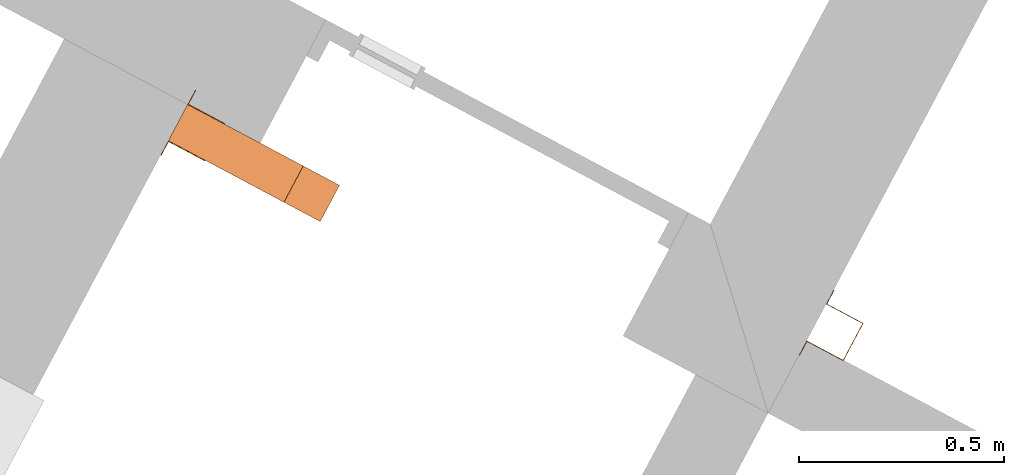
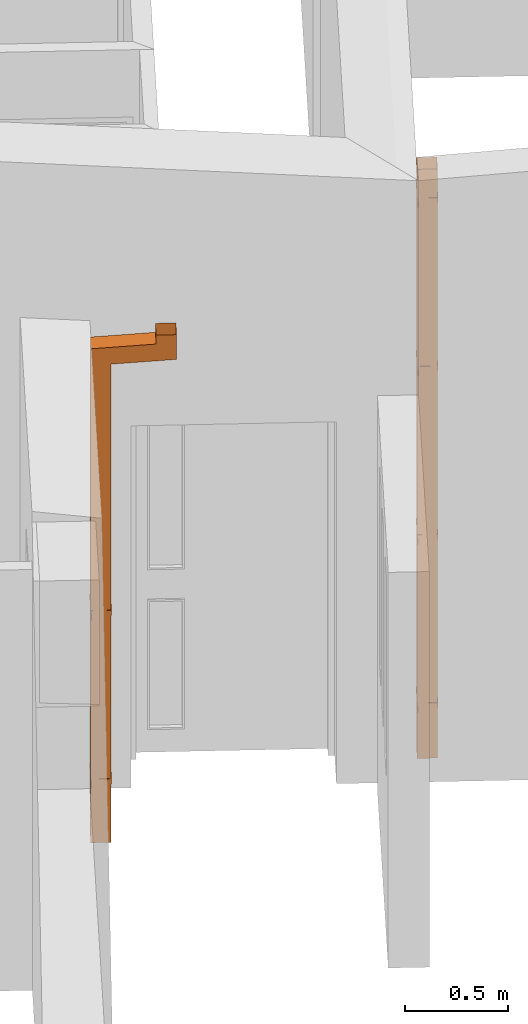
# One storey, part 16 of 27: 2 proxies.
"""IFC2X3 building model written with IfcOpenShell, lengths in metres."""

from ifc_helpers import new_model, entity, si_unit, converted_unit, derived_unit, money_unit, direction, frame, origin_with_axes, place, context, subcontext, project, spatial, open_shell, faceted_brep, surface_model, source, transform, mapped, type_object, element, save


model = new_model("IFC2X3")

# Units and contexts
model_context = context("Model", 3, precision=1e-05, world=origin_with_axes(), true_north=direction((0.0, 1.0)))
body_context = subcontext(model_context, "Body", "Model", "MODEL_VIEW")
ifc_project = project(units=[si_unit("LENGTHUNIT", "METRE"), si_unit("AREAUNIT", "SQUARE_METRE"), si_unit("VOLUMEUNIT", "CUBIC_METRE"), converted_unit("PLANEANGLEUNIT", "DEGREE", entity("IfcPlaneAngleMeasure", 0.0174532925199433), si_unit("PLANEANGLEUNIT", "RADIAN"), dimensions=[0, 0, 0, 0, 0, 0, 0]), money_unit("CHF"), converted_unit("TIMEUNIT", "Year", entity("IfcTimeMeasure", 31557600.0), si_unit("TIMEUNIT", "SECOND"), dimensions=[0, 0, 1, 0, 0, 0, 0]), si_unit("MASSUNIT", "GRAM", prefix="KILO"), si_unit("THERMODYNAMICTEMPERATUREUNIT", "DEGREE_CELSIUS"), si_unit("LUMINOUSINTENSITYUNIT", "LUMEN"), si_unit("ENERGYUNIT", "JOULE", prefix="MEGA"), derived_unit("THERMALCONDUCTANCEUNIT", [(si_unit("POWERUNIT", "WATT"), 1), (si_unit("LENGTHUNIT", "METRE"), -1), (si_unit("THERMODYNAMICTEMPERATUREUNIT", "KELVIN"), -1)]), derived_unit("SPECIFICHEATCAPACITYUNIT", [(si_unit("ENERGYUNIT", "JOULE"), 1), (si_unit("MASSUNIT", "GRAM", prefix="KILO"), -1), (si_unit("THERMODYNAMICTEMPERATUREUNIT", "KELVIN"), -1)]), derived_unit("MASSDENSITYUNIT", [(si_unit("MASSUNIT", "GRAM", prefix="KILO"), 1), (si_unit("VOLUMEUNIT", "CUBIC_METRE"), -1)])], contexts=[model_context])

# Site, building, storey
site_placement = place(None, frame((0.0, 0.0, 0.0), z_axis=(0.0, 0.0, 1.0), x_axis=(-0.4694715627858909, -0.8829475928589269, 0.0)))
site = spatial("IfcSite", under=ifc_project, at=site_placement, Name="Site", CompositionType="ELEMENT")
building_placement = place(site_placement, origin_with_axes())
building = spatial("IfcBuilding", under=site, at=building_placement, Name="Bâtiment", CompositionType="ELEMENT")
storey_placement = place(building_placement, origin_with_axes())
storey = spatial("IfcBuildingStorey", under=building, at=storey_placement, Name="RDC", CompositionType="ELEMENT", Elevation=0.0)

# Proxies
building_element_proxy_type_1 = type_object("IfcBuildingElementProxyType", Name="Tuyau descente 27", PredefinedType="NOTDEFINED")
shared_shape_1 = source(origin_with_axes(), body_context, "Body", "SurfaceModel", [
    surface_model("IfcShellBasedSurfaceModel", [(-0.05, -0.05, 3.5), (-0.05, 0.05, 3.5), (-0.05, 0.05, 0.0), (-0.05, -0.05, 0.0), (0.05, 0.05, 3.5), (0.05, 0.05, 0.0), (0.05, -0.05, 3.5), (0.05, -0.05, 0.0)], [open_shell([[[0, 1, 2, 3]], [[1, 4, 5, 2]], [[6, 0, 3, 7]], [[4, 6, 7, 5]]])]),
    faceted_brep([(-0.09, 0.0479, 0.3), (-0.052, 0.0479, 0.3), (-0.052, 0.0479, 0.33), (-0.09, 0.0479, 0.33), (-0.09, 0.0499, 0.3), (-0.0502, 0.0499, 0.3), (-0.0502, -0.0503, 0.3), (0.0502, -0.0503, 0.3), (0.0502, 0.0499, 0.3), (0.09, 0.0499, 0.3), (0.09, 0.0479, 0.3), (0.052, 0.0479, 0.3), (0.052, -0.05210000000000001, 0.3), (-0.052, -0.05210000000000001, 0.3), (-0.052, -0.05210000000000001, 0.33), (0.052, -0.05210000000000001, 0.33), (0.052, 0.0479, 0.33), (0.09, 0.0479, 0.33), (0.09, 0.0499, 0.33), (0.0502, 0.0499, 0.33), (0.0502, -0.0503, 0.33), (-0.0502, -0.0503, 0.33), (-0.0502, 0.0499, 0.33), (-0.09, 0.0499, 0.33)], [[[0, 1, 2, 3]], [[0, 4, 5, 6, 7, 8, 9, 10, 11, 12, 13, 1]], [[1, 13, 14, 2]], [[3, 2, 14, 15, 16, 17, 18, 19, 20, 21, 22, 23]], [[4, 0, 3, 23]], [[5, 4, 23, 22]], [[6, 5, 22, 21]], [[7, 6, 21, 20]], [[8, 7, 20, 19]], [[9, 8, 19, 18]], [[10, 9, 18, 17]], [[11, 10, 17, 16]], [[12, 11, 16, 15]], [[13, 12, 15, 14]]]),
    faceted_brep([(-0.09, 0.0479, 1.3), (-0.052, 0.0479, 1.3), (-0.052, 0.0479, 1.33), (-0.09, 0.0479, 1.33), (-0.09, 0.0499, 1.3), (-0.0502, 0.0499, 1.3), (-0.0502, -0.0503, 1.3), (0.0502, -0.0503, 1.3), (0.0502, 0.0499, 1.3), (0.09, 0.0499, 1.3), (0.09, 0.0479, 1.3), (0.052, 0.0479, 1.3), (0.052, -0.05210000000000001, 1.3), (-0.052, -0.05210000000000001, 1.3), (-0.052, -0.05210000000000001, 1.33), (0.052, -0.05210000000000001, 1.33), (0.052, 0.0479, 1.33), (0.09, 0.0479, 1.33), (0.09, 0.0499, 1.33), (0.0502, 0.0499, 1.33), (0.0502, -0.0503, 1.33), (-0.0502, -0.0503, 1.33), (-0.0502, 0.0499, 1.33), (-0.09, 0.0499, 1.33)], [[[0, 1, 2, 3]], [[0, 4, 5, 6, 7, 8, 9, 10, 11, 12, 13, 1]], [[1, 13, 14, 2]], [[3, 2, 14, 15, 16, 17, 18, 19, 20, 21, 22, 23]], [[4, 0, 3, 23]], [[5, 4, 23, 22]], [[6, 5, 22, 21]], [[7, 6, 21, 20]], [[8, 7, 20, 19]], [[9, 8, 19, 18]], [[10, 9, 18, 17]], [[11, 10, 17, 16]], [[12, 11, 16, 15]], [[13, 12, 15, 14]]]),
    faceted_brep([(-0.09, 0.0479, 2.3), (-0.052, 0.0479, 2.3), (-0.052, 0.0479, 2.33), (-0.09, 0.0479, 2.33), (-0.09, 0.0499, 2.3), (-0.0502, 0.0499, 2.3), (-0.0502, -0.0503, 2.3), (0.0502, -0.0503, 2.3), (0.0502, 0.0499, 2.3), (0.09, 0.0499, 2.3), (0.09, 0.0479, 2.3), (0.052, 0.0479, 2.3), (0.052, -0.05210000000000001, 2.3), (-0.052, -0.05210000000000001, 2.3), (-0.052, -0.05210000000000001, 2.33), (0.052, -0.05210000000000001, 2.33), (0.052, 0.0479, 2.33), (0.09, 0.0479, 2.33), (0.09, 0.0499, 2.33), (0.0502, 0.0499, 2.33), (0.0502, -0.0503, 2.33), (-0.0502, -0.0503, 2.33), (-0.0502, 0.0499, 2.33), (-0.09, 0.0499, 2.33)], [[[0, 1, 2, 3]], [[0, 4, 5, 6, 7, 8, 9, 10, 11, 12, 13, 1]], [[1, 13, 14, 2]], [[3, 2, 14, 15, 16, 17, 18, 19, 20, 21, 22, 23]], [[4, 0, 3, 23]], [[5, 4, 23, 22]], [[6, 5, 22, 21]], [[7, 6, 21, 20]], [[8, 7, 20, 19]], [[9, 8, 19, 18]], [[10, 9, 18, 17]], [[11, 10, 17, 16]], [[12, 11, 16, 15]], [[13, 12, 15, 14]]]),
    faceted_brep([(-0.09, 0.0479, 3.3), (-0.052, 0.0479, 3.3), (-0.052, 0.0479, 3.33), (-0.09, 0.0479, 3.33), (-0.09, 0.0499, 3.3), (-0.0502, 0.0499, 3.3), (-0.0502, -0.0503, 3.3), (0.0502, -0.0503, 3.3), (0.0502, 0.0499, 3.3), (0.09, 0.0499, 3.3), (0.09, 0.0479, 3.3), (0.052, 0.0479, 3.3), (0.052, -0.05210000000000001, 3.3), (-0.052, -0.05210000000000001, 3.3), (-0.052, -0.05210000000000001, 3.33), (0.052, -0.05210000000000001, 3.33), (0.052, 0.0479, 3.33), (0.09, 0.0479, 3.33), (0.09, 0.0499, 3.33), (0.0502, 0.0499, 3.33), (0.0502, -0.0503, 3.33), (-0.0502, -0.0503, 3.33), (-0.0502, 0.0499, 3.33), (-0.09, 0.0499, 3.33)], [[[0, 1, 2, 3]], [[0, 4, 5, 6, 7, 8, 9, 10, 11, 12, 13, 1]], [[1, 13, 14, 2]], [[3, 2, 14, 15, 16, 17, 18, 19, 20, 21, 22, 23]], [[4, 0, 3, 23]], [[5, 4, 23, 22]], [[6, 5, 22, 21]], [[7, 6, 21, 20]], [[8, 7, 20, 19]], [[9, 8, 19, 18]], [[10, 9, 18, 17]], [[11, 10, 17, 16]], [[12, 11, 16, 15]], [[13, 12, 15, 14]]]),
])
proxy_1_placement = place(storey_placement, frame((143.2795710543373, -828.64459910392, 0.0), z_axis=(0.0, 0.0, 1.0), x_axis=(-1.0, 0.0, 0.0)))
element("IfcBuildingElementProxy", 1, at=proxy_1_placement, inside=storey, type_object=building_element_proxy_type_1, Name="Obj.-486", context=body_context, shape_type="MappedRepresentation", body=[
    mapped(shared_shape_1, transform((0.0, 0.0, 0.0))),
])
building_element_proxy_type_2 = type_object("IfcBuildingElementProxyType", Name="Tuyau descente complexe 27", PredefinedType="NOTDEFINED")
shared_shape_2 = source(origin_with_axes(), body_context, "Body", "SurfaceModel", [
    surface_model("IfcShellBasedSurfaceModel", [(0.05000000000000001, 0.05, 0.25), (0.05, -0.05000000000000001, 0.25), (0.05, -0.05000000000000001, 0.15), (0.05, -0.05000000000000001, 0.0), (0.05000000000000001, 0.05, 0.0), (0.05000000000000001, 0.05, 0.15), (-0.05000000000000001, -0.05, 0.25), (-0.05000000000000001, -0.05, 0.15), (-0.05000000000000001, -0.05, 0.0), (-0.05, 0.05000000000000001, 0.25), (-0.05, 0.05000000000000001, 0.0), (-0.05, 0.05000000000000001, 0.15)], [open_shell([[[0, 1, 2, 3, 4, 5]], [[1, 6, 7, 8, 3, 2]], [[9, 0, 5, 4, 10, 11]], [[6, 9, 11, 10, 8, 7]]])]),
    surface_model("IfcShellBasedSurfaceModel", [(-0.05, -0.05, 2.20857864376), (-0.05, 0.05, 2.20857864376), (-0.05, 0.05, 0.25), (-0.05, -0.05, 0.25), (0.05, 0.05, 2.20857864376), (0.05, 0.05, 0.25), (0.05, -0.05, 2.20857864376), (0.05, -0.05, 0.25)], [open_shell([[[0, 1, 2, 3]], [[1, 4, 5, 2]], [[6, 0, 3, 7]], [[4, 6, 7, 5]]])]),
    faceted_brep([(-0.09, 0.0479, 0.35), (-0.052, 0.0479, 0.35), (-0.052, 0.0479, 0.38), (-0.09, 0.0479, 0.38), (-0.09, 0.0499, 0.35), (-0.0502, 0.0499, 0.35), (-0.0502, -0.0503, 0.35), (0.0502, -0.0503, 0.35), (0.0502, 0.0499, 0.35), (0.09, 0.0499, 0.35), (0.09, 0.0479, 0.35), (0.052, 0.0479, 0.35), (0.052, -0.05210000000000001, 0.35), (-0.052, -0.05210000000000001, 0.35), (-0.052, -0.05210000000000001, 0.38), (0.052, -0.05210000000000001, 0.38), (0.052, 0.0479, 0.38), (0.09, 0.0479, 0.38), (0.09, 0.0499, 0.38), (0.0502, 0.0499, 0.38), (0.0502, -0.0503, 0.38), (-0.0502, -0.0503, 0.38), (-0.0502, 0.0499, 0.38), (-0.09, 0.0499, 0.38)], [[[0, 1, 2, 3]], [[0, 4, 5, 6, 7, 8, 9, 10, 11, 12, 13, 1]], [[1, 13, 14, 2]], [[3, 2, 14, 15, 16, 17, 18, 19, 20, 21, 22, 23]], [[4, 0, 3, 23]], [[5, 4, 23, 22]], [[6, 5, 22, 21]], [[7, 6, 21, 20]], [[8, 7, 20, 19]], [[9, 8, 19, 18]], [[10, 9, 18, 17]], [[11, 10, 17, 16]], [[12, 11, 16, 15]], [[13, 12, 15, 14]]]),
    faceted_brep([(-0.09, 0.0479, 1.35), (-0.052, 0.0479, 1.35), (-0.052, 0.0479, 1.38), (-0.09, 0.0479, 1.38), (-0.09, 0.0499, 1.35), (-0.0502, 0.0499, 1.35), (-0.0502, -0.0503, 1.35), (0.0502, -0.0503, 1.35), (0.0502, 0.0499, 1.35), (0.09, 0.0499, 1.35), (0.09, 0.0479, 1.35), (0.052, 0.0479, 1.35), (0.052, -0.05210000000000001, 1.35), (-0.052, -0.05210000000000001, 1.35), (-0.052, -0.05210000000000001, 1.38), (0.052, -0.05210000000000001, 1.38), (0.052, 0.0479, 1.38), (0.09, 0.0479, 1.38), (0.09, 0.0499, 1.38), (0.0502, 0.0499, 1.38), (0.0502, -0.0503, 1.38), (-0.0502, -0.0503, 1.38), (-0.0502, 0.0499, 1.38), (-0.09, 0.0499, 1.38)], [[[0, 1, 2, 3]], [[0, 4, 5, 6, 7, 8, 9, 10, 11, 12, 13, 1]], [[1, 13, 14, 2]], [[3, 2, 14, 15, 16, 17, 18, 19, 20, 21, 22, 23]], [[4, 0, 3, 23]], [[5, 4, 23, 22]], [[6, 5, 22, 21]], [[7, 6, 21, 20]], [[8, 7, 20, 19]], [[9, 8, 19, 18]], [[10, 9, 18, 17]], [[11, 10, 17, 16]], [[12, 11, 16, 15]], [[13, 12, 15, 14]]]),
    surface_model("IfcShellBasedSurfaceModel", [(0.05000000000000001, -0.2688982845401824, 3.00857864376), (0.05, -0.3688982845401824, 3.00857864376), (0.05, -0.3688982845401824, 2.861712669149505), (0.05000000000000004, -0.04999999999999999, 2.841055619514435), (0.05000000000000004, -0.04999999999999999, 2.20857864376), (0.05000000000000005, 0.04999999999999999, 2.20857864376), (0.05000000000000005, 0.04999999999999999, 2.934787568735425), (0.05000000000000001, -0.2688982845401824, 2.955444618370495), (-0.05000000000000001, -0.3688982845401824, 3.00857864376), (-0.05000000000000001, -0.3688982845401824, 2.861712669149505), (-0.04999999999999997, -0.04999999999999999, 2.841055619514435), (-0.04999999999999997, -0.04999999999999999, 2.20857864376), (-0.04999999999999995, 0.04999999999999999, 2.934787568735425), (-0.04999999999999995, 0.04999999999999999, 2.20857864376), (-0.05, -0.2688982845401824, 2.955444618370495), (-0.05, -0.2688982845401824, 3.00857864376)], [open_shell([[[0, 1, 2, 3, 4, 5, 6, 7]], [[1, 8, 9, 2]], [[2, 9, 10, 3]], [[3, 10, 11, 4]], [[12, 6, 5, 13]], [[14, 7, 6, 12]], [[15, 0, 7, 14]], [[8, 15, 14, 12, 13, 11, 10, 9]]])]),
])
proxy_2_placement = place(storey_placement, frame((143.5795710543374, -830.24459910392, -0.25209940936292), z_axis=(0.0, 0.0, 1.0), x_axis=(-1.0, 0.0, 0.0)))
element("IfcBuildingElementProxy", 2, at=proxy_2_placement, inside=storey, type_object=building_element_proxy_type_2, Name="Obj.-486", context=body_context, shape_type="MappedRepresentation", body=[
    mapped(shared_shape_2, transform((0.0, 0.0, 0.0))),
])

save(model, "model.ifc")
